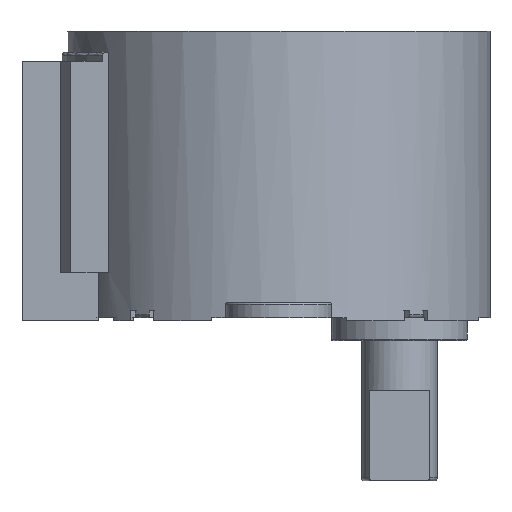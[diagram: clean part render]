
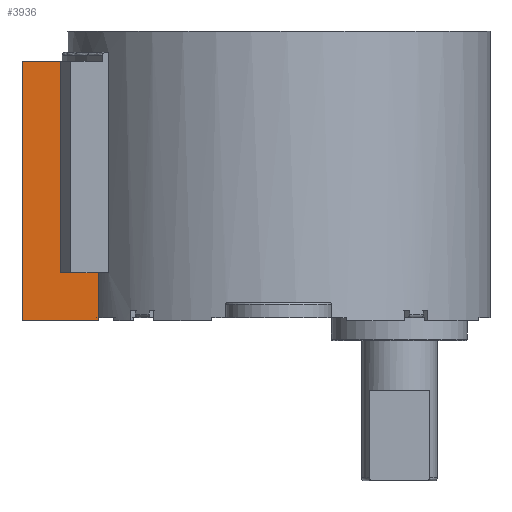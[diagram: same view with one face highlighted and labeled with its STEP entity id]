
A CAD part, left-side view. The second image highlights one B-rep face of the part: STEP entity #3936.
In plain terms, the highlighted planar face has unit normal (-1, 0, 0).
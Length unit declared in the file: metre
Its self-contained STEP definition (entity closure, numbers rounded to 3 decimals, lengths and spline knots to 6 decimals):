
#665=LINE('',#6474,#967);
#677=LINE('',#6502,#979);
#678=LINE('',#6505,#980);
#679=LINE('',#6507,#981);
#680=LINE('',#6509,#982);
#681=LINE('',#6510,#983);
#682=LINE('',#6511,#984);
#967=VECTOR('',#5236,1.);
#979=VECTOR('',#5260,1.);
#980=VECTOR('',#5261,1.);
#981=VECTOR('',#5262,1.);
#982=VECTOR('',#5263,1.);
#983=VECTOR('',#5264,1.);
#984=VECTOR('',#5265,1.);
#1125=PLANE('',#4296);
#2078=ORIENTED_EDGE('',*,*,#2787,.T.);
#2079=ORIENTED_EDGE('',*,*,#2788,.T.);
#2080=ORIENTED_EDGE('',*,*,#2789,.T.);
#2081=ORIENTED_EDGE('',*,*,#2790,.T.);
#2082=ORIENTED_EDGE('',*,*,#2773,.F.);
#2083=ORIENTED_EDGE('',*,*,#2791,.F.);
#2084=ORIENTED_EDGE('',*,*,#2792,.F.);
#2773=EDGE_CURVE('',#3153,#3154,#665,.T.);
#2787=EDGE_CURVE('',#3164,#3165,#677,.T.);
#2788=EDGE_CURVE('',#3165,#3166,#678,.T.);
#2789=EDGE_CURVE('',#3166,#3167,#679,.T.);
#2790=EDGE_CURVE('',#3167,#3154,#680,.T.);
#2791=EDGE_CURVE('',#3135,#3153,#681,.T.);
#2792=EDGE_CURVE('',#3164,#3135,#682,.T.);
#3135=VERTEX_POINT('',#6430);
#3153=VERTEX_POINT('',#6473);
#3154=VERTEX_POINT('',#6475);
#3164=VERTEX_POINT('',#6503);
#3165=VERTEX_POINT('',#6504);
#3166=VERTEX_POINT('',#6506);
#3167=VERTEX_POINT('',#6508);
#3421=EDGE_LOOP('',(#2078,#2079,#2080,#2081,#2082,#2083,#2084));
#3681=FACE_BOUND('',#3421,.T.);
#3936=ADVANCED_FACE('',(#3681),#1125,.T.);
#4296=AXIS2_PLACEMENT_3D('',#6501,#5258,#5259);
#5236=DIRECTION('',(0.,1.,0.));
#5258=DIRECTION('',(-1.,0.,0.));
#5259=DIRECTION('',(0.,1.,0.));
#5260=DIRECTION('',(0.,1.,0.));
#5261=DIRECTION('',(0.,0.,1.));
#5262=DIRECTION('',(0.,1.,0.));
#5263=DIRECTION('',(0.,0.,-1.));
#5264=DIRECTION('',(0.,0.,-1.));
#5265=DIRECTION('',(0.,0.,-1.));
#6430=CARTESIAN_POINT('',(-0.0073,0.011946,0.));
#6473=CARTESIAN_POINT('',(-0.0073,0.011946,-0.0002));
#6474=CARTESIAN_POINT('',(-0.0073,0.011946,-0.0002));
#6475=CARTESIAN_POINT('',(-0.0073,0.017,-0.0002));
#6501=CARTESIAN_POINT('',(-0.0073,0.011946,0.017));
#6502=CARTESIAN_POINT('',(-0.0073,0.011946,0.003));
#6503=CARTESIAN_POINT('',(-0.0073,0.011946,0.003));
#6504=CARTESIAN_POINT('',(-0.0073,0.014446,0.003));
#6505=CARTESIAN_POINT('',(-0.0073,0.014446,0.017));
#6506=CARTESIAN_POINT('',(-0.0073,0.014446,0.017));
#6507=CARTESIAN_POINT('',(-0.0073,0.011946,0.017));
#6508=CARTESIAN_POINT('',(-0.0073,0.017,0.017));
#6509=CARTESIAN_POINT('',(-0.0073,0.017,0.017));
#6510=CARTESIAN_POINT('',(-0.0073,0.011946,0.017));
#6511=CARTESIAN_POINT('',(-0.0073,0.011946,0.017));
